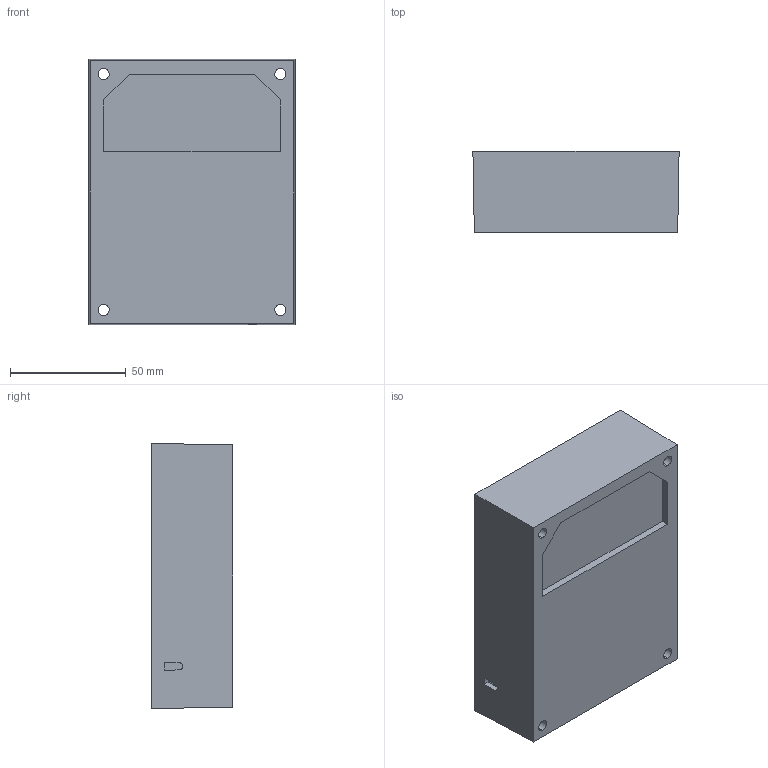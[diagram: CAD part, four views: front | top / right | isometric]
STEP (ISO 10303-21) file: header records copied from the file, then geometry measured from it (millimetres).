
FILE_DESCRIPTION (( 'STEP AP203' ), '1' );
FILE_NAME ('90295.STEP', '2014-03-10T19:47:42', ( 'Vulcan' ), ( 'Hewlett-Packard Company' ), 'SwSTEP 2.0', 'SolidWorks 2013', '' );
FILE_SCHEMA (( 'CONFIG_CONTROL_DESIGN' ));
Length unit declared in the file: inch
Products named in the file (1): 90295
Bounding box: 88.9 x 34.92 x 114.3 mm (x, y, z)
Volume: 86348.5 mm3; surface area: 71253 mm2
Topology: 1 solids, 5 shells, 335 faces, 882 edges, 588 vertices
Faces by surface type: plane 206, bspline 108, cylinder 21
Entity records: 17979 total; most frequent: CARTESIAN_POINT 10600, ORIENTED_EDGE 1764, DIRECTION 1016, EDGE_CURVE 882, VERTEX_POINT 588, LINE 488, VECTOR 488, EDGE_LOOP 378
